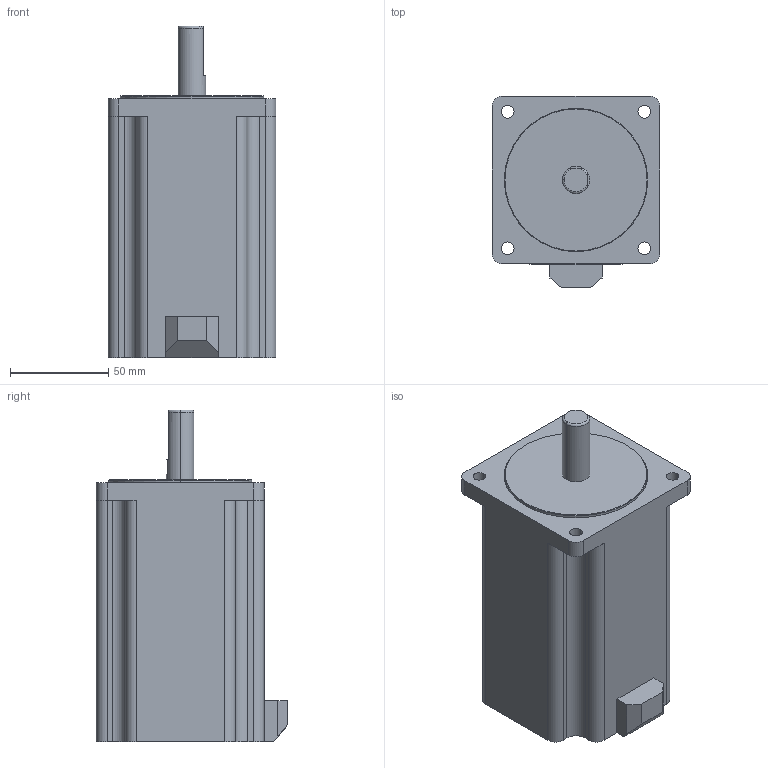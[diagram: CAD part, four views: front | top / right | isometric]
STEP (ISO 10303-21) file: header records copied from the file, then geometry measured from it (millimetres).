
FILE_DESCRIPTION (( 'STEP AP203' ), '1' );
FILE_NAME ('PMSA-B86D5H_3D.STEP', '2016-12-02T03:52:17', ( 'user01' ), ( '' ), 'SwSTEP 2.0', 'SolidWorks 2014', '' );
FILE_SCHEMA (( 'CONFIG_CONTROL_DESIGN' ));
Length unit declared in the file: millimetre
Products named in the file (1): PMSA-B86D5H_3D
Bounding box: 85.5 x 97.5 x 169 mm (x, y, z)
Volume: 871345.7 mm3; surface area: 60778.5 mm2
Topology: 1 solids, 2 shells, 70 faces, 187 edges, 123 vertices
Faces by surface type: plane 33, cylinder 30, cone 4, torus 3
Entity records: 2360 total; most frequent: CARTESIAN_POINT 449, DIRECTION 399, ORIENTED_EDGE 374, EDGE_CURVE 187, AXIS2_PLACEMENT_3D 145, VERTEX_POINT 123, VECTOR 109, LINE 109
